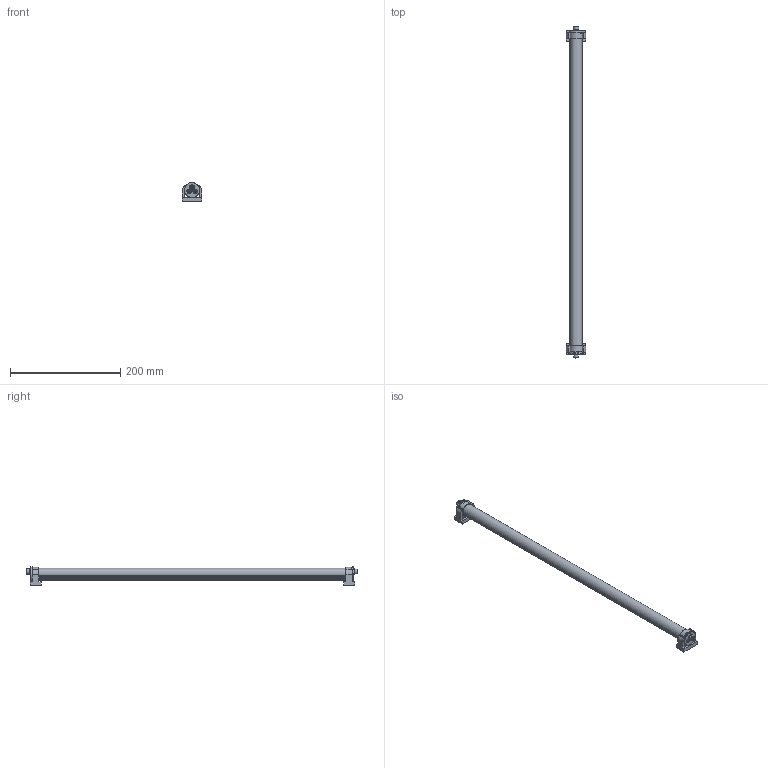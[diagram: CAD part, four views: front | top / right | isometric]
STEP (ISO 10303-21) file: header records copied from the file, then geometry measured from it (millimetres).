
FILE_DESCRIPTION(/* description */ (''),/* implementation_level */ '2;1');
FILE_NAME(/* name */ 'G:\Daten\Leuchten\06100 - LED ELN - ELN-RGBW\03 - CAD\ELN560\led-aufbauleuchte-eln-560-D.stp',/* time_stamp */ '2023-05-03T09:43:23+02:00',/* author */ ('gzahn'),/* organization */ (''),/* preprocessor_version */ 'ST-DEVELOPER v19',/* originating_system */ 'Autodesk Inventor 2023',/* authorisation */ '');
FILE_SCHEMA (('AUTOMOTIVE_DESIGN { 1 0 10303 214 3 1 1 }'));
Length unit declared in the file: millimetre
Products named in the file (1): led-aufbauleuchte-eln-560-D
Bounding box: 35 x 603.04 x 34.07 mm (x, y, z)
Volume: 229916.7 mm3; surface area: 60945.4 mm2
Topology: 1 solids, 1 shells, 561 faces, 1596 edges, 1029 vertices
Faces by surface type: plane 198, cylinder 174, cone 120, bspline 64, torus 5
Full cylindrical faces by diameter (mm): 1 x4, 1.05 x4, 1.3 x4, 4.4 x2, 5.65 x1, 5.8 x1, 7 x1, 7.25 x1, 7.4 x3, 7.5 x4, 8 x1, 8.1 x2, 9.7 x1
Entity records: 23500 total; most frequent: CARTESIAN_POINT 8666, ORIENTED_EDGE 3184, DIRECTION 2802, EDGE_CURVE 1592, AXIS2_PLACEMENT_3D 1113, VERTEX_POINT 1029, EDGE_LOOP 605, CIRCLE 590
